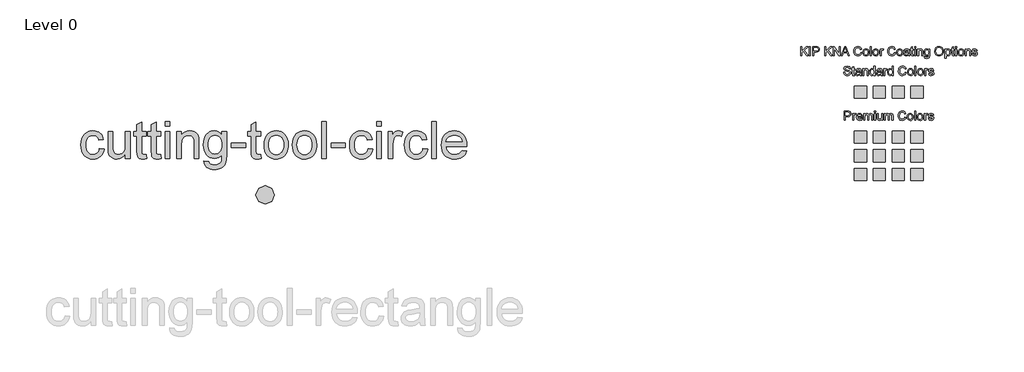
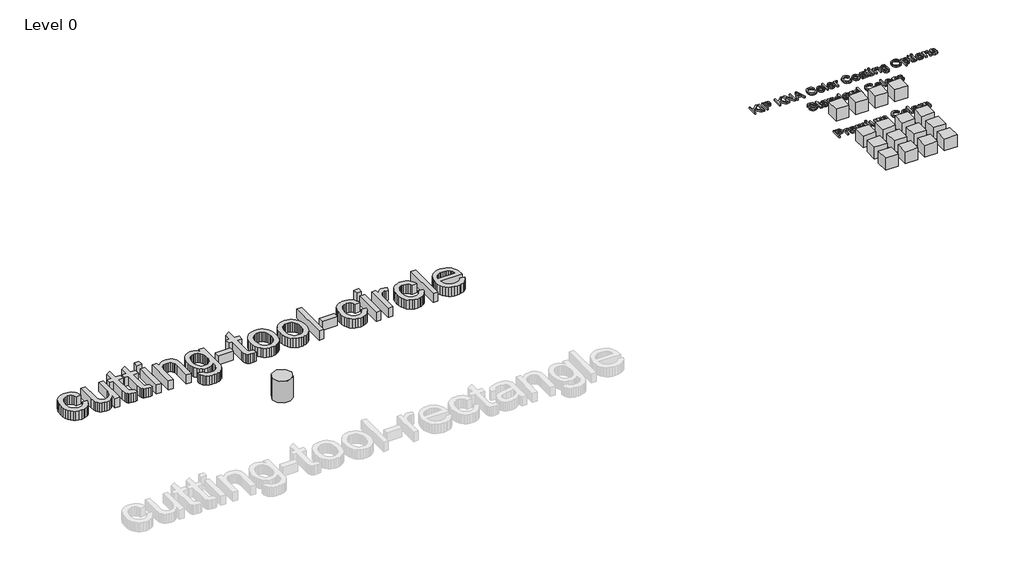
# One storey, part 3 of 3: 19 proxies.
"""IFC4 building model written with IfcOpenShell, lengths in millimetres."""

from ifc_helpers import new_model, si_unit, origin, origin_with_axes, place, context, project, spatial, polyline, outline, extrude, transform, mapped, element, save
from components import kna_colour_range_roof_only_kna_colour_range_roof_only_6b243e54, ks_colour_sample_ks_colour_sample_0243efec, kingspan_ks_cutting_tool_circle_cutting_tool_circle_f6fe257a

model = new_model("IFC4")

# Units and contexts
model_context = context("Model", 3, world=origin())
ifc_project = project(units=[si_unit("LENGTHUNIT", "METRE", prefix="MILLI")], contexts=[model_context])

# Site, building, storey
site = spatial("IfcSite", under=ifc_project)
building = spatial("IfcBuilding", under=site)
storey = spatial("IfcBuildingStorey", under=building, Name="Level 0", Elevation=0.0)

# Proxies
placement = place(None, origin())
element("IfcBuildingElementProxy", 1, Name="24\" Arial", ObjectType="24\" Arial", at=placement, inside=storey, context=model_context, shape_type="SweptSolid", body=[
    extrude(outline(polyline([(215.1393839, 11536.1316486), (291.2811574, 11526.6139269), (282.9996242, 11490.685457), (270.0521766, 11458.8931064), (252.4388147, 11431.236875), (230.1595384, 11407.716763), (204.1531075, 11388.9462171), (175.3582815, 11375.5386844), (143.7750605, 11367.4941647), (109.4034445, 11364.8126582), (66.6991747, 11368.5537548), (28.4098636, 11379.7770448), (-5.4644886, 11398.4825281), (-34.9238821, 11424.6702047), (-58.7693069, 11457.8474582), (-75.8017532, 11497.5216721), (-86.0212209, 11543.6928464), (-89.4277102, 11596.3609812), (-83.6092592, 11664.1189803), (-76.3361955, 11694.6100799), (-66.1539064, 11722.8425795), (-52.9926818, 11748.2495056), (-36.7828121, 11770.2638843), (-17.5242971, 11788.8857157), (4.7828631, 11804.1149999), (29.130199, 11815.9563841), (54.5092411, 11824.4145157), (80.9199893, 11829.4893946), (108.3624437, 11831.181021), (142.1438494, 11828.8573584), (172.7000116, 11821.8863709), (200.0309302, 11810.2680583), (224.1366052, 11794.0024206), (244.608072, 11773.4612439), (261.036366, 11749.0163142), (273.4214873, 11720.6676314), (281.7634357, 11688.4151956), (205.6216622, 11678.8974739), (191.8098122, 11712.1165533), (170.3019919, 11735.9294469), (142.2879165, 11750.2617973), (108.9573013, 11755.0392474), (83.0856428, 11752.687701), (59.7514237, 11745.6330616), (38.9546441, 11733.8753292), (20.6953041, 11717.4145039), (5.8285112, 11695.869505), (-4.7906265, 11668.8592518), (-11.1621091, 11636.3837444), (-13.2859367, 11598.4429828), (-11.2085824, 11559.9306001), (-4.9765195, 11527.0786594), (5.410252, 11499.8871606), (19.951732, 11478.3561036), (37.8485808, 11461.9928722), (58.3014583, 11450.3048497), (81.3103646, 11443.2920362), (106.8752997, 11440.9544317), (146.3032053, 11446.7914719), (163.3542409, 11454.0877723), (178.6299983, 11464.3025927), (191.7029237, 11477.5474691), (202.1454631, 11493.9339372), (209.9576165, 11513.461997), (215.1393839, 11536.1316486)])), origin_with_axes(), (0.0, 0.0, 1.0), 152.4),
    extrude(outline(polyline([(643.4368599, 11374.3303799), (643.4368599, 11451.2157254), (615.8875171, 11413.4143835), (583.802385, 11386.413425), (547.1814636, 11370.2128499), (506.024753, 11364.8126582), (468.9390992, 11368.6048754), (434.4187687, 11379.9815271), (405.4566391, 11397.0836833), (385.0455875, 11418.0524139), (371.3080947, 11443.5197551), (362.3666413, 11474.1177432), (357.9052092, 11544.9057983), (357.9052092, 11821.6632993), (434.0469827, 11821.6632993), (434.0469827, 11580.745969), (435.1995194, 11532.562503), (438.6571292, 11503.1170515), (449.7549414, 11477.2221563), (468.7717955, 11457.5360874), (494.443619, 11445.0998456), (525.5063396, 11440.9544317), (558.353633, 11445.1927921), (589.0817462, 11457.9078734), (614.4189623, 11477.9285497), (631.0935646, 11504.0836951), (640.3510361, 11539.9052765), (643.4368599, 11588.9252611), (643.4368599, 11821.6632993), (719.5786334, 11821.6632993), (719.5786334, 11374.3303799), (643.4368599, 11374.3303799)])), origin_with_axes(), (0.0, 0.0, 1.0), 152.4),
    extrude(outline(polyline([(986.0748407, 11437.8314293), (995.5925624, 11372.0996638), (965.4407175, 11366.6344096), (938.6349467, 11364.8126582), (902.0883826, 11367.9728392), (874.8364685, 11377.4533823), (855.5779535, 11392.0645722), (843.0115866, 11410.6166938), (836.0963669, 11442.4787543), (833.7912937, 11497.019761), (833.7912937, 11745.5215258), (776.6849636, 11745.5215258), (776.6849636, 11821.6632993), (833.7912937, 11821.6632993), (833.7912937, 11930.3735267), (909.9330672, 11975.1365615), (909.9330672, 11821.6632993), (986.0748407, 11821.6632993), (986.0748407, 11745.5215258), (909.9330672, 11745.5215258), (909.9330672, 11499.250477), (913.9483561, 11459.9898751), (926.9608662, 11446.0850785), (937.9471426, 11442.2370934), (952.9115292, 11440.9544317), (986.0748407, 11437.8314293)])), origin_with_axes(), (0.0, 0.0, 1.0), 152.4),
    extrude(outline(polyline([(1224.017883, 11437.8314293), (1233.5356047, 11372.0996638), (1203.3837598, 11366.6344096), (1176.5779889, 11364.8126582), (1140.0314248, 11367.9728392), (1112.7795107, 11377.4533823), (1093.5209958, 11392.0645722), (1080.9546288, 11410.6166938), (1074.0394092, 11442.4787543), (1071.734336, 11497.019761), (1071.734336, 11745.5215258), (1014.6280058, 11745.5215258), (1014.6280058, 11821.6632993), (1071.734336, 11821.6632993), (1071.734336, 11930.3735267), (1147.8761095, 11975.1365615), (1147.8761095, 11821.6632993), (1224.017883, 11821.6632993), (1224.017883, 11745.5215258), (1147.8761095, 11745.5215258), (1147.8761095, 11499.250477), (1151.8913983, 11459.9898751), (1164.9039084, 11446.0850785), (1175.8901848, 11442.2370934), (1190.8545715, 11440.9544317), (1224.017883, 11437.8314293)])), origin_with_axes(), (0.0, 0.0, 1.0), 152.4),
    extrude(outline(polyline([(1300.1596565, 11907.3227945), (1300.1596565, 11983.464568), (1376.30143, 11983.464568), (1376.30143, 11907.3227945), (1300.1596565, 11907.3227945)])), origin_with_axes(), (0.0, 0.0, 1.0), 152.4),
    extrude(outline(polyline([(1300.1596565, 11374.3303799), (1300.1596565, 11821.6632993), (1376.30143, 11821.6632993), (1376.30143, 11374.3303799), (1300.1596565, 11374.3303799)])), origin_with_axes(), (0.0, 0.0, 1.0), 152.4),
    extrude(outline(polyline([(1490.5140903, 11374.3303799), (1490.5140903, 11821.6632993), (1566.6558638, 11821.6632993), (1566.6558638, 11759.2032507), (1593.108438, 11790.6935252), (1624.877552, 11813.1865784), (1661.9632058, 11826.6824103), (1704.3653995, 11831.181021), (1741.8971966, 11827.5561074), (1776.2688126, 11816.6813668), (1804.9335135, 11799.9138181), (1825.344565, 11778.6104801), (1839.1935937, 11752.8271207), (1848.1722257, 11722.6195079), (1852.1875145, 11649.0058792), (1852.1875145, 11374.3303799), (1776.045741, 11374.3303799), (1776.045741, 11638.7445856), (1773.8522036, 11678.1167233), (1767.2715913, 11706.1122094), (1755.1327783, 11726.1700643), (1736.2646386, 11741.7293085), (1712.0799591, 11751.7117627), (1683.9915265, 11755.0392474), (1660.8710844, 11753.1710228), (1639.3957954, 11747.5663488), (1619.5656594, 11738.2252254), (1601.3806765, 11725.1476528), (1586.188571, 11706.8464867), (1575.337067, 11681.8345834), (1568.8261646, 11650.1119426), (1566.6558638, 11611.6785645), (1566.6558638, 11374.3303799), (1490.5140903, 11374.3303799)])), origin_with_axes(), (0.0, 0.0, 1.0), 152.4),
    extrude(outline(polyline([(1937.8470097, 11336.2594931), (2013.9887832, 11326.7417714), (2022.3911469, 11302.9474672), (2038.6753739, 11286.588883), (2070.6861488, 11273.8738017), (2112.5864314, 11269.6354413), (2157.275109, 11274.4314807), (2175.3253194, 11280.42653), (2190.5127777, 11288.8195991), (2213.5635099, 11311.8703313), (2227.691378, 11342.6542124), (2231.8182027, 11375.4085593), (2232.8963821, 11431.43671), (2207.5591659, 11406.4526906), (2179.2848404, 11388.6069624), (2148.0734054, 11377.8995255), (2113.924861, 11374.3303799), (2072.1779401, 11378.4850885), (2035.4222463, 11390.9492142), (2003.6577797, 11411.7227572), (1976.8845401, 11440.8057173), (1955.6416173, 11475.6978337), (1940.468101, 11513.8988456), (1931.3639913, 11555.4087529), (1928.329288, 11600.2275556), (1933.775953, 11661.7023713), (1950.1159478, 11718.2324331), (1962.2268769, 11743.723011), (1976.7730043, 11766.1370597), (1993.75433, 11785.4745792), (2013.170854, 11801.7355695), (2034.7112056, 11814.6179545), (2058.0640139, 11823.8196581), (2083.2292791, 11829.3406802), (2110.2070009, 11831.181021), (2145.8148054, 11827.0170177), (2178.1323038, 11814.525008), (2207.159496, 11793.7049918), (2232.8963821, 11764.5569691), (2232.8963821, 11821.6632993), (2309.0381556, 11821.6632993), (2309.0381556, 11435.4519988), (2303.8331516, 11346.2791259), (2297.3268965, 11313.1111671), (2288.2181394, 11287.5555266), (2276.288456, 11266.9446401), (2261.3194221, 11248.6109428), (2243.3110375, 11232.5544348), (2222.2633024, 11218.775116), (2198.3899936, 11207.7144824), (2171.9048882, 11199.8140298), (2142.8079861, 11195.0737583), (2111.0992873, 11193.4936678), (2073.7952092, 11195.7197365), (2040.2554644, 11202.3979425), (2010.4800528, 11213.528286), (1984.4689745, 11229.1107669), (1963.458418, 11249.1639745), (1948.6845717, 11273.706498), (1940.1474356, 11302.7383376), (1937.8470097, 11336.2594931)]), holes=[polyline([(2004.4710615, 11605.4325596), (2006.5019426, 11567.7845795), (2012.5945857, 11535.5925589), (2022.7489909, 11508.8564979), (2036.9651582, 11487.5763965), (2054.2485601, 11471.3432902), (2073.6046689, 11459.7482142), (2095.0334847, 11452.7911686), (2118.5350074, 11450.4721534), (2141.8041639, 11452.7772266), (2163.1307385, 11459.6924463), (2182.5147313, 11471.2178124), (2199.9561422, 11487.3533249), (2214.3674971, 11508.4242967), (2224.6613221, 11534.7560404), (2230.8376171, 11566.348556), (2232.8963821, 11603.2018436), (2230.7772019, 11638.5168666), (2224.4196612, 11669.2124485), (2213.8237601, 11695.2885894), (2198.9894986, 11716.7452891), (2181.1716543, 11733.4988959), (2161.6250052, 11745.4657579), (2140.3495512, 11752.645875), (2117.3452922, 11755.0392474), (2094.7267612, 11752.6830537), (2073.8649191, 11745.6144723), (2054.7597658, 11733.8335033), (2037.4113014, 11717.3401467), (2022.9999465, 11696.2087597), (2012.7061215, 11670.5136996), (2006.5298265, 11640.2549662), (2004.4710615, 11605.4325596)])]), origin_with_axes(), (0.0, 0.0, 1.0), 152.4),
    extrude(outline(polyline([(2385.1799291, 11555.167092), (2385.1799291, 11631.3088655), (2623.1229714, 11631.3088655), (2623.1229714, 11555.167092), (2385.1799291, 11555.167092)])), origin_with_axes(), (0.0, 0.0, 1.0), 152.4),
    extrude(outline(polyline([(2870.5837353, 11437.8314293), (2880.101457, 11372.0996638), (2849.9496121, 11366.6344096), (2823.1438412, 11364.8126582), (2786.5972771, 11367.9728392), (2759.345363, 11377.4533823), (2740.0868481, 11392.0645722), (2727.5204811, 11410.6166938), (2720.6052615, 11442.4787543), (2718.3001883, 11497.019761), (2718.3001883, 11745.5215258), (2661.1938581, 11745.5215258), (2661.1938581, 11821.6632993), (2718.3001883, 11821.6632993), (2718.3001883, 11930.3735267), (2794.4419618, 11975.1365615), (2794.4419618, 11821.6632993), (2870.5837353, 11821.6632993), (2870.5837353, 11745.5215258), (2794.4419618, 11745.5215258), (2794.4419618, 11499.250477), (2798.4572506, 11459.9898751), (2811.4697607, 11446.0850785), (2822.4560371, 11442.2370934), (2837.4204238, 11440.9544317), (2870.5837353, 11437.8314293)])), origin_with_axes(), (0.0, 0.0, 1.0), 152.4),
    extrude(outline(polyline([(2927.6900654, 11597.9968396), (2931.8075954, 11655.9303936), (2944.1601854, 11705.8519592), (2964.7478353, 11747.7615364), (2993.5705452, 11781.6591253), (3022.5884428, 11803.3249547), (3054.617807, 11818.800547), (3089.6586379, 11828.0859025), (3127.7109353, 11831.181021), (3169.7181064, 11827.4120404), (3207.700694, 11816.1050985), (3241.6586981, 11797.2601955), (3271.5921187, 11770.8773312), (3296.0231064, 11737.8487921), (3313.473812, 11699.0668646), (3323.9442353, 11654.5315487), (3327.4343764, 11604.2428444), (3325.8914645, 11563.4858038), (3321.2627287, 11527.3203203), (3313.5481692, 11495.746394), (3302.7477858, 11468.7640248), (3288.996351, 11445.4576897), (3272.4286372, 11424.9118656), (3253.0446444, 11407.1265527), (3230.8443727, 11392.1017508), (3206.6922244, 11380.1627728), (3181.4526021, 11371.6349313), (3155.1255057, 11366.5182265), (3127.7109353, 11364.8126582), (3085.0903173, 11368.5676968), (3046.7545331, 11379.8328127), (3012.7035825, 11398.6080059), (2982.9374655, 11424.8932763), (2958.766728, 11458.2424809), (2941.5019155, 11498.2094762), (2931.1430279, 11544.7942625), (2927.6900654, 11597.9968396)]), holes=[polyline([(3003.8318389, 11598.145554), (3006.034671, 11561.2132618), (3012.6431672, 11529.2350182), (3023.6573276, 11502.2108231), (3039.0771521, 11480.1406765), (3057.833756, 11462.9966944), (3078.8582545, 11450.7509929), (3102.1506476, 11443.403572), (3127.7109353, 11440.9544317), (3153.141098, 11443.417514), (3176.3405446, 11450.8067608), (3197.3092752, 11463.1221721), (3216.0472897, 11480.3637481), (3231.4671142, 11502.652319), (3242.4812746, 11530.1087153), (3249.0897708, 11562.7329371), (3251.2926029, 11600.5249844), (3249.0758288, 11636.2861506), (3242.4255067, 11667.4278757), (3231.3416365, 11693.9501597), (3215.8242181, 11715.8530027), (3197.0164937, 11732.9969848), (3176.0617051, 11745.2426863), (3152.9598523, 11752.5901071), (3127.7109353, 11755.0392474), (3102.1506476, 11752.5994018), (3078.8582545, 11745.2798649), (3057.833756, 11733.0806366), (3039.0771521, 11716.0017171), (3023.6573276, 11693.996633), (3012.6431672, 11667.0189111), (3006.034671, 11635.0685514), (3003.8318389, 11598.145554)])]), origin_with_axes(), (0.0, 0.0, 1.0), 152.4),
    extrude(outline(polyline([(3394.0584282, 11597.9968396), (3398.1759582, 11655.9303936), (3410.5285482, 11705.8519592), (3431.1161981, 11747.7615364), (3459.938908, 11781.6591253), (3488.9568056, 11803.3249547), (3520.9861698, 11818.800547), (3556.0270006, 11828.0859025), (3594.0792981, 11831.181021), (3636.0864692, 11827.4120404), (3674.0690568, 11816.1050985), (3708.0270609, 11797.2601955), (3737.9604815, 11770.8773312), (3762.3914692, 11737.8487921), (3779.8421748, 11699.0668646), (3790.3125981, 11654.5315487), (3793.8027392, 11604.2428444), (3792.2598273, 11563.4858038), (3787.6310915, 11527.3203203), (3779.916532, 11495.746394), (3769.1161486, 11468.7640248), (3755.3647137, 11445.4576897), (3738.797, 11424.9118656), (3719.4130072, 11407.1265527), (3697.2127355, 11392.1017508), (3673.0605872, 11380.1627728), (3647.8209649, 11371.6349313), (3621.4938685, 11366.5182265), (3594.0792981, 11364.8126582), (3551.4586801, 11368.5676968), (3513.1228958, 11379.8328127), (3479.0719452, 11398.6080059), (3449.3058283, 11424.8932763), (3425.1350908, 11458.2424809), (3407.8702783, 11498.2094762), (3397.5113907, 11544.7942625), (3394.0584282, 11597.9968396)]), holes=[polyline([(3470.2002017, 11598.145554), (3472.4030338, 11561.2132618), (3479.01153, 11529.2350182), (3490.0256904, 11502.2108231), (3505.4455149, 11480.1406765), (3524.2021187, 11462.9966944), (3545.2266172, 11450.7509929), (3568.5190104, 11443.403572), (3594.0792981, 11440.9544317), (3619.5094607, 11443.417514), (3642.7089074, 11450.8067608), (3663.677638, 11463.1221721), (3682.4156525, 11480.3637481), (3697.835477, 11502.652319), (3708.8496374, 11530.1087153), (3715.4581336, 11562.7329371), (3717.6609657, 11600.5249844), (3715.4441916, 11636.2861506), (3708.7938695, 11667.4278757), (3697.7099993, 11693.9501597), (3682.1925809, 11715.8530027), (3663.3848565, 11732.9969848), (3642.4300679, 11745.2426863), (3619.3282151, 11752.5901071), (3594.0792981, 11755.0392474), (3568.5190104, 11752.5994018), (3545.2266172, 11745.2798649), (3524.2021187, 11733.0806366), (3505.4455149, 11716.0017171), (3490.0256904, 11693.996633), (3479.01153, 11667.0189111), (3472.4030338, 11635.0685514), (3470.2002017, 11598.145554)])]), origin_with_axes(), (0.0, 0.0, 1.0), 152.4),
    extrude(outline(polyline([(3879.4622344, 11374.3303799), (3879.4622344, 11983.464568), (3955.6040079, 11983.464568), (3955.6040079, 11374.3303799), (3879.4622344, 11374.3303799)])), origin_with_axes(), (0.0, 0.0, 1.0), 152.4),
    extrude(outline(polyline([(4031.7457814, 11555.167092), (4031.7457814, 11631.3088655), (4269.6888237, 11631.3088655), (4269.6888237, 11555.167092), (4031.7457814, 11555.167092)])), origin_with_axes(), (0.0, 0.0, 1.0), 152.4),
    extrude(outline(polyline([(4640.8799696, 11536.1316486), (4717.0217431, 11526.6139269), (4708.7402099, 11490.685457), (4695.7927623, 11458.8931064), (4678.1794004, 11431.236875), (4655.9001241, 11407.716763), (4629.8936932, 11388.9462171), (4601.0988672, 11375.5386844), (4569.5156462, 11367.4941647), (4535.1440302, 11364.8126582), (4492.4397603, 11368.5537548), (4454.1504493, 11379.7770448), (4420.2760971, 11398.4825281), (4390.8167036, 11424.6702047), (4366.9712788, 11457.8474582), (4349.9388325, 11497.5216721), (4339.7193648, 11543.6928464), (4336.3128755, 11596.3609812), (4342.1313265, 11664.1189803), (4349.4043901, 11694.6100799), (4359.5866793, 11722.8425795), (4372.7479038, 11748.2495056), (4388.9577736, 11770.2638843), (4408.2162886, 11788.8857157), (4430.5234488, 11804.1149999), (4454.8707847, 11815.9563841), (4480.2498268, 11824.4145157), (4506.660575, 11829.4893946), (4534.1030294, 11831.181021), (4567.8844351, 11828.8573584), (4598.4405973, 11821.8863709), (4625.7715158, 11810.2680583), (4649.8771908, 11794.0024206), (4670.3486577, 11773.4612439), (4686.7769517, 11749.0163142), (4699.1620729, 11720.6676314), (4707.5040214, 11688.4151956), (4631.3622479, 11678.8974739), (4617.5503978, 11712.1165533), (4596.0425775, 11735.9294469), (4568.0285022, 11750.2617973), (4534.697887, 11755.0392474), (4508.8262284, 11752.687701), (4485.4920094, 11745.6330616), (4464.6952298, 11733.8753292), (4446.4358897, 11717.4145039), (4431.5690969, 11695.869505), (4420.9499592, 11668.8592518), (4414.5784766, 11636.3837444), (4412.454649, 11598.4429828), (4414.5320033, 11559.9306001), (4420.7640662, 11527.0786594), (4431.1508377, 11499.8871606), (4445.6923177, 11478.3561036), (4463.5891665, 11461.9928722), (4484.042044, 11450.3048497), (4507.0509503, 11443.2920362), (4532.6158853, 11440.9544317), (4572.043791, 11446.7914719), (4589.0948266, 11454.0877723), (4604.370584, 11464.3025927), (4617.4435094, 11477.5474691), (4627.8860487, 11493.9339372), (4635.6982021, 11513.461997), (4640.8799696, 11536.1316486)])), origin_with_axes(), (0.0, 0.0, 1.0), 152.4),
    extrude(outline(polyline([(4783.6457949, 11907.3227945), (4783.6457949, 11983.464568), (4859.7875684, 11983.464568), (4859.7875684, 11907.3227945), (4783.6457949, 11907.3227945)])), origin_with_axes(), (0.0, 0.0, 1.0), 152.4),
    extrude(outline(polyline([(4783.6457949, 11374.3303799), (4783.6457949, 11821.6632993), (4859.7875684, 11821.6632993), (4859.7875684, 11374.3303799), (4783.6457949, 11374.3303799)])), origin_with_axes(), (0.0, 0.0, 1.0), 152.4),
    extrude(outline(polyline([(4974.0002287, 11374.3303799), (4974.0002287, 11821.6632993), (5040.6242805, 11821.6632993), (5040.6242805, 11755.4853907), (5065.236514, 11793.8537062), (5087.9154602, 11816.4582952), (5110.6687636, 11827.5003395), (5135.5040686, 11831.181021), (5173.426241, 11825.3068021), (5211.9432709, 11807.6841455), (5186.5131083, 11739.4242353), (5159.7445161, 11751.1354944), (5132.9759238, 11755.0392474), (5110.2412097, 11751.2842088), (5089.9231046, 11740.0190929), (5073.5087525, 11722.0990075), (5062.4852975, 11698.3790605), (5053.227826, 11655.8467417), (5050.1420022, 11609.4478485), (5050.1420022, 11374.3303799), (4974.0002287, 11374.3303799)])), origin_with_axes(), (0.0, 0.0, 1.0), 152.4),
    extrude(outline(polyline([(5545.0635301, 11536.1316486), (5621.2053036, 11526.6139269), (5612.9237704, 11490.685457), (5599.9763228, 11458.8931064), (5582.3629609, 11431.236875), (5560.0836846, 11407.716763), (5534.0772537, 11388.9462171), (5505.2824277, 11375.5386844), (5473.6992067, 11367.4941647), (5439.3275907, 11364.8126582), (5396.6233209, 11368.5537548), (5358.3340098, 11379.7770448), (5324.4596576, 11398.4825281), (5295.0002641, 11424.6702047), (5271.1548393, 11457.8474582), (5254.122393, 11497.5216721), (5243.9029253, 11543.6928464), (5240.496436, 11596.3609812), (5246.314887, 11664.1189803), (5253.5879507, 11694.6100799), (5263.7702398, 11722.8425795), (5276.9314644, 11748.2495056), (5293.1413341, 11770.2638843), (5312.3998491, 11788.8857157), (5334.7070093, 11804.1149999), (5359.0543452, 11815.9563841), (5384.4333873, 11824.4145157), (5410.8441355, 11829.4893946), (5438.2865899, 11831.181021), (5472.0679956, 11828.8573584), (5502.6241578, 11821.8863709), (5529.9550764, 11810.2680583), (5554.0607514, 11794.0024206), (5574.5322182, 11773.4612439), (5590.9605122, 11749.0163142), (5603.3456335, 11720.6676314), (5611.6875819, 11688.4151956), (5535.5458084, 11678.8974739), (5521.7339584, 11712.1165533), (5500.2261381, 11735.9294469), (5472.2120627, 11750.2617973), (5438.8814475, 11755.0392474), (5413.009789, 11752.687701), (5389.6755699, 11745.6330616), (5368.8787903, 11733.8753292), (5350.6194502, 11717.4145039), (5335.7526574, 11695.869505), (5325.1335197, 11668.8592518), (5318.7620371, 11636.3837444), (5316.6382095, 11598.4429828), (5318.7155638, 11559.9306001), (5324.9476267, 11527.0786594), (5335.3343982, 11499.8871606), (5349.8758782, 11478.3561036), (5367.772727, 11461.9928722), (5388.2256045, 11450.3048497), (5411.2345108, 11443.2920362), (5436.7994459, 11440.9544317), (5476.2273515, 11446.7914719), (5493.2783871, 11454.0877723), (5508.5541445, 11464.3025927), (5521.6270699, 11477.5474691), (5532.0696093, 11493.9339372), (5539.8817627, 11513.461997), (5545.0635301, 11536.1316486)])), origin_with_axes(), (0.0, 0.0, 1.0), 152.4),
    extrude(outline(polyline([(5687.8293554, 11374.3303799), (5687.8293554, 11983.464568), (5763.9711289, 11983.464568), (5763.9711289, 11374.3303799), (5687.8293554, 11374.3303799)])), origin_with_axes(), (0.0, 0.0, 1.0), 152.4),
    extrude(outline(polyline([(6191.3763186, 11507.5784835), (6266.0309481, 11498.0607618), (6254.5845865, 11468.1598725), (6239.1322307, 11441.8095395), (6219.6738808, 11419.0097628), (6196.2095366, 11399.7605425), (6168.9808592, 11384.4708431), (6138.2295094, 11373.5496293), (6103.9554872, 11366.9969009), (6066.1587926, 11364.8126582), (6018.9140862, 11368.5816388), (5976.8186159, 11379.8885806), (5939.8723818, 11398.7334837), (5908.0753839, 11425.1163479), (5882.5058015, 11458.3028961), (5864.2418141, 11497.5588507), (5853.2834216, 11542.8842119), (5849.6306241, 11594.2789795), (5853.3206002, 11647.4164941), (5864.3905285, 11694.2522359), (5882.8404089, 11734.7862049), (5908.6702415, 11769.0184012), (5940.3835876, 11796.2145473), (5976.4840085, 11815.640366), (6016.9715043, 11827.2958572), (6061.8460749, 11831.181021), (6105.2753275, 11827.3051519), (6144.5498714, 11815.6775446), (6179.6697068, 11796.2981992), (6210.6348335, 11769.1671156), (6235.9116345, 11735.0092765), (6253.9664923, 11694.5496647), (6264.7994069, 11647.7882801), (6268.4103785, 11594.7251227), (6267.9642353, 11574.2025353), (5925.7723977, 11574.2025353), (5930.1827091, 11543.8183242), (5938.9522115, 11517.207741), (5952.0809047, 11494.3707857), (5969.5687889, 11475.3074584), (5990.4492203, 11460.2780092), (6013.7555554, 11449.5426884), (6039.4877942, 11443.1014959), (6067.6459366, 11440.9544317), (6108.170611, 11444.9325419), (6142.3005661, 11456.8668726), (6170.035802, 11477.5009958), (6191.3763186, 11507.5784835)]), holes=[polyline([(5925.7723977, 11650.3443089), (6192.268605, 11650.3443089), (6181.9701327, 11690.5715544), (6173.1123311, 11706.3910489), (6161.7821527, 11719.3477911), (6141.0179044, 11734.9628033), (6117.3909039, 11746.1163834), (6090.9011511, 11752.8085314), (6061.5486461, 11755.0392474), (6034.7754066, 11753.259322), (6010.2235884, 11747.9195455), (5987.8931915, 11739.019918), (5967.7842161, 11726.5604396), (5950.9097788, 11711.1173785), (5938.2829967, 11693.267003), (5929.9038696, 11673.0093131), (5925.7723977, 11650.3443089)])]), origin_with_axes(), (0.0, 0.0, 1.0), 152.4),
])
kna_colour_range_roof_only_kna_colour_range_roof_only_shape = kna_colour_range_roof_only_kna_colour_range_roof_only_6b243e54(model_context)
element("IfcBuildingElementProxy", 2, Name="KNA_Colour Range - Roof Only : KNA_Colour Range - Roof Only", ObjectType="KNA_Colour Range - Roof Only : KNA_Colour Range - Roof Only", at=placement, inside=storey, context=model_context, shape_type="MappedRepresentation", body=[
    mapped(kna_colour_range_roof_only_kna_colour_range_roof_only_shape, transform((13221.5853815, 10491.2290821, 0.0), x_axis=(1.0, 0.0, 0.0), y_axis=(0.0, 1.0, 0.0), z_axis=(0.0, 0.0, 1.0))),
])
ks_colour_sample_ks_colour_sample_shape = ks_colour_sample_ks_colour_sample_0243efec(model_context)
element("IfcBuildingElementProxy", 3, Name="KS_Colour Sample : KS_Colour Sample", ObjectType="KS_Colour Sample : KS_Colour Sample", at=placement, inside=storey, context=model_context, shape_type="MappedRepresentation", body=[
    mapped(ks_colour_sample_ks_colour_sample_shape, transform((12756.5853815, 12469.7096271, 0.0), x_axis=(1.0, 0.0, 0.0), y_axis=(0.0, 1.0, 0.0), z_axis=(0.0, 0.0, 1.0))),
])
element("IfcBuildingElementProxy", 4, Name="KS_Colour Sample : KS_Colour Sample", ObjectType="KS_Colour Sample : KS_Colour Sample", at=placement, inside=storey, context=model_context, shape_type="MappedRepresentation", body=[
    mapped(ks_colour_sample_ks_colour_sample_shape, transform((13066.5853815, 12469.7096271, 0.0), x_axis=(1.0, 0.0, 0.0), y_axis=(0.0, 1.0, 0.0), z_axis=(0.0, 0.0, 1.0))),
])
element("IfcBuildingElementProxy", 5, Name="KS_Colour Sample : KS_Colour Sample", ObjectType="KS_Colour Sample : KS_Colour Sample", at=placement, inside=storey, context=model_context, shape_type="MappedRepresentation", body=[
    mapped(ks_colour_sample_ks_colour_sample_shape, transform((13376.5853815, 12469.7096271, 0.0), x_axis=(1.0, 0.0, 0.0), y_axis=(0.0, 1.0, 0.0), z_axis=(0.0, 0.0, 1.0))),
])
element("IfcBuildingElementProxy", 6, Name="KS_Colour Sample : KS_Colour Sample", ObjectType="KS_Colour Sample : KS_Colour Sample", at=placement, inside=storey, context=model_context, shape_type="MappedRepresentation", body=[
    mapped(ks_colour_sample_ks_colour_sample_shape, transform((13686.5853815, 12469.7096271, 0.0), x_axis=(1.0, 0.0, 0.0), y_axis=(0.0, 1.0, 0.0), z_axis=(0.0, 0.0, 1.0))),
])
element("IfcBuildingElementProxy", 7, Name="KS_Colour Sample : KS_Colour Sample", ObjectType="KS_Colour Sample : KS_Colour Sample", at=placement, inside=storey, context=model_context, shape_type="MappedRepresentation", body=[
    mapped(ks_colour_sample_ks_colour_sample_shape, transform((12756.5853815, 11729.7096271, 0.0), x_axis=(1.0, 0.0, 0.0), y_axis=(0.0, 1.0, 0.0), z_axis=(0.0, 0.0, 1.0))),
])
element("IfcBuildingElementProxy", 8, Name="KS_Colour Sample : KS_Colour Sample", ObjectType="KS_Colour Sample : KS_Colour Sample", at=placement, inside=storey, context=model_context, shape_type="MappedRepresentation", body=[
    mapped(ks_colour_sample_ks_colour_sample_shape, transform((13066.5853815, 11729.7096271, 0.0), x_axis=(1.0, 0.0, 0.0), y_axis=(0.0, 1.0, 0.0), z_axis=(0.0, 0.0, 1.0))),
])
element("IfcBuildingElementProxy", 9, Name="KS_Colour Sample : KS_Colour Sample", ObjectType="KS_Colour Sample : KS_Colour Sample", at=placement, inside=storey, context=model_context, shape_type="MappedRepresentation", body=[
    mapped(ks_colour_sample_ks_colour_sample_shape, transform((13376.5853815, 11729.7096271, 0.0), x_axis=(1.0, 0.0, 0.0), y_axis=(0.0, 1.0, 0.0), z_axis=(0.0, 0.0, 1.0))),
])
element("IfcBuildingElementProxy", 10, Name="KS_Colour Sample : KS_Colour Sample", ObjectType="KS_Colour Sample : KS_Colour Sample", at=placement, inside=storey, context=model_context, shape_type="MappedRepresentation", body=[
    mapped(ks_colour_sample_ks_colour_sample_shape, transform((13686.5853815, 11729.7096271, 0.0), x_axis=(1.0, 0.0, 0.0), y_axis=(0.0, 1.0, 0.0), z_axis=(0.0, 0.0, 1.0))),
])
element("IfcBuildingElementProxy", 11, Name="KS_Colour Sample : KS_Colour Sample", ObjectType="KS_Colour Sample : KS_Colour Sample", at=placement, inside=storey, context=model_context, shape_type="MappedRepresentation", body=[
    mapped(ks_colour_sample_ks_colour_sample_shape, transform((12756.5853815, 11419.7096271, 0.0), x_axis=(1.0, 0.0, 0.0), y_axis=(0.0, 1.0, 0.0), z_axis=(0.0, 0.0, 1.0))),
])
element("IfcBuildingElementProxy", 12, Name="KS_Colour Sample : KS_Colour Sample", ObjectType="KS_Colour Sample : KS_Colour Sample", at=placement, inside=storey, context=model_context, shape_type="MappedRepresentation", body=[
    mapped(ks_colour_sample_ks_colour_sample_shape, transform((13066.5853815, 11419.7096271, 0.0), x_axis=(1.0, 0.0, 0.0), y_axis=(0.0, 1.0, 0.0), z_axis=(0.0, 0.0, 1.0))),
])
element("IfcBuildingElementProxy", 13, Name="KS_Colour Sample : KS_Colour Sample", ObjectType="KS_Colour Sample : KS_Colour Sample", at=placement, inside=storey, context=model_context, shape_type="MappedRepresentation", body=[
    mapped(ks_colour_sample_ks_colour_sample_shape, transform((13376.5853815, 11419.7096271, 0.0), x_axis=(1.0, 0.0, 0.0), y_axis=(0.0, 1.0, 0.0), z_axis=(0.0, 0.0, 1.0))),
])
element("IfcBuildingElementProxy", 14, Name="KS_Colour Sample : KS_Colour Sample", ObjectType="KS_Colour Sample : KS_Colour Sample", at=placement, inside=storey, context=model_context, shape_type="MappedRepresentation", body=[
    mapped(ks_colour_sample_ks_colour_sample_shape, transform((13686.5853815, 11419.7096271, 0.0), x_axis=(1.0, 0.0, 0.0), y_axis=(0.0, 1.0, 0.0), z_axis=(0.0, 0.0, 1.0))),
])
element("IfcBuildingElementProxy", 15, Name="KS_Colour Sample : KS_Colour Sample", ObjectType="KS_Colour Sample : KS_Colour Sample", at=placement, inside=storey, context=model_context, shape_type="MappedRepresentation", body=[
    mapped(ks_colour_sample_ks_colour_sample_shape, transform((12756.5853815, 11109.7096271, 0.0), x_axis=(1.0, 0.0, 0.0), y_axis=(0.0, 1.0, 0.0), z_axis=(0.0, 0.0, 1.0))),
])
element("IfcBuildingElementProxy", 16, Name="KS_Colour Sample : KS_Colour Sample", ObjectType="KS_Colour Sample : KS_Colour Sample", at=placement, inside=storey, context=model_context, shape_type="MappedRepresentation", body=[
    mapped(ks_colour_sample_ks_colour_sample_shape, transform((13066.5853815, 11109.7096271, 0.0), x_axis=(1.0, 0.0, 0.0), y_axis=(0.0, 1.0, 0.0), z_axis=(0.0, 0.0, 1.0))),
])
element("IfcBuildingElementProxy", 17, Name="KS_Colour Sample : KS_Colour Sample", ObjectType="KS_Colour Sample : KS_Colour Sample", at=placement, inside=storey, context=model_context, shape_type="MappedRepresentation", body=[
    mapped(ks_colour_sample_ks_colour_sample_shape, transform((13376.5853815, 11109.7096271, 0.0), x_axis=(1.0, 0.0, 0.0), y_axis=(0.0, 1.0, 0.0), z_axis=(0.0, 0.0, 1.0))),
])
element("IfcBuildingElementProxy", 18, Name="KS_Colour Sample : KS_Colour Sample", ObjectType="KS_Colour Sample : KS_Colour Sample", at=placement, inside=storey, context=model_context, shape_type="MappedRepresentation", body=[
    mapped(ks_colour_sample_ks_colour_sample_shape, transform((13686.5853815, 11109.7096271, 0.0), x_axis=(1.0, 0.0, 0.0), y_axis=(0.0, 1.0, 0.0), z_axis=(0.0, 0.0, 1.0))),
])
kingspan_ks_cutting_tool_circle_cutting_tool_circle_shape = kingspan_ks_cutting_tool_circle_cutting_tool_circle_f6fe257a(model_context)
element("IfcBuildingElementProxy", 19, Name="kingspan-ks-cutting-tool-circle : cutting-tool-circle", ObjectType="kingspan-ks-cutting-tool-circle : cutting-tool-circle", at=placement, inside=storey, context=model_context, shape_type="MappedRepresentation", body=[
    mapped(kingspan_ks_cutting_tool_circle_cutting_tool_circle_shape, transform((2945.9274021, 10773.7651848, 0.0), x_axis=(1.0, 0.0, 0.0), y_axis=(0.0, 1.0, 0.0), z_axis=(0.0, 0.0, 1.0))),
])

save(model, "model.ifc")
